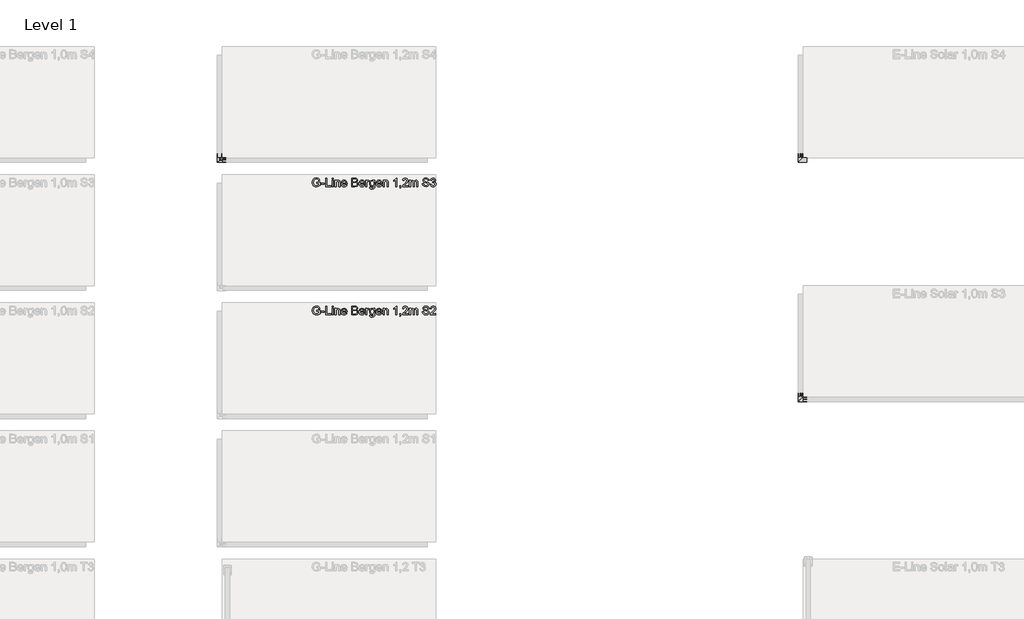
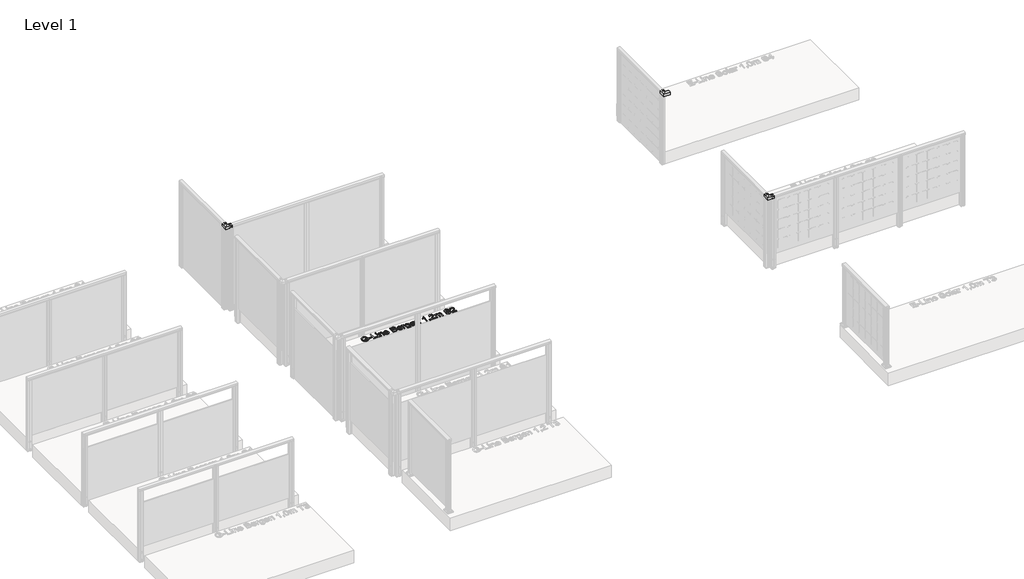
# One storey, part 59 of 66: 5 proxies.
"""IFC4 building model written with IfcOpenShell, lengths in millimetres."""

from ifc_helpers import new_model, si_unit, origin, origin_with_axes, place, context, project, spatial, polyline, outline, extrude, transform, mapped, element, save
from components import generic_models_029e0633

model = new_model("IFC4")

# Units and contexts
model_context = context("Model", 3, world=origin())
ifc_project = project(units=[si_unit("LENGTHUNIT", "METRE", prefix="MILLI")], contexts=[model_context])

# Site, building, storey
site = spatial("IfcSite", under=ifc_project)
building = spatial("IfcBuilding", under=site)
storey = spatial("IfcBuildingStorey", under=building, Name="Level 1", Elevation=0.0)

# Proxies
placement = place(None, origin())
generic_models_shape = generic_models_029e0633(model_context)
element("IfcBuildingElementProxy", 1, Name="Innore top rail 51x43 corner element : Innore top rail 51x43 element", ObjectType="Innore top rail 51x43 corner element : Innore top rail 51x43 element", at=placement, inside=storey, context=model_context, shape_type="MappedRepresentation", body=[
    mapped(generic_models_shape, transform((8466.5256066, 2988.9093698, 1200.0), x_axis=(0.0, -1.0, 0.0), y_axis=(1.0, 0.0, 0.0), z_axis=(0.0, 0.0, 1.0))),
])
element("IfcBuildingElementProxy", 2, Name="Innore top rail 51x43 corner element : Innore top rail 51x43 element", ObjectType="Innore top rail 51x43 corner element : Innore top rail 51x43 element", at=placement, inside=storey, context=model_context, shape_type="MappedRepresentation", body=[
    mapped(generic_models_shape, transform((15266.5256066, 2988.9093698, 1000.0), x_axis=(0.0, -1.0, 0.0), y_axis=(1.0, 0.0, 0.0), z_axis=(0.0, 0.0, 1.0))),
])
element("IfcBuildingElementProxy", 3, Name="Innore top rail 51x43 corner element : Innore top rail 51x43 element", ObjectType="Innore top rail 51x43 corner element : Innore top rail 51x43 element", at=placement, inside=storey, context=model_context, shape_type="MappedRepresentation", body=[
    mapped(generic_models_shape, transform((15266.5256066, 188.9093698, 1000.0), x_axis=(0.0, -1.0, 0.0), y_axis=(1.0, 0.0, 0.0), z_axis=(0.0, 0.0, 1.0))),
])
element("IfcBuildingElementProxy", 4, Name="100mm Arial", ObjectType="100mm Arial", at=placement, inside=storey, context=model_context, shape_type="SweptSolid", body=[
    extrude(outline(polyline([(9601.1253773, 1218.1223441), (9601.1253773, 1230.6793828), (9641.9357533, 1230.6793828), (9641.9357533, 1193.1308939), (9621.7880827, 1181.2850936), (9600.4877152, 1177.3119681), (9586.4009005, 1178.890795), (9573.6691178, 1183.6272757), (9563.0925104, 1191.3558632), (9555.4712217, 1201.9110108), (9550.8634997, 1214.5722828), (9549.3275924, 1228.6192437), (9550.8573684, 1242.7673721), (9555.4466963, 1255.9283504), (9562.9055037, 1266.967876), (9573.0437184, 1274.7516459), (9585.3922907, 1279.3685649), (9599.4821711, 1280.9075379), (9619.1270696, 1277.3390826), (9632.898119, 1267.4062687), (9640.4887508, 1250.7902652), (9628.9127307, 1247.5283782), (9623.1860343, 1259.1411865), (9613.4003732, 1265.8366388), (9599.2859674, 1268.3504991), (9583.2095242, 1265.6404351), (9572.2711662, 1258.5280499), (9565.8087058, 1248.8527534), (9561.8846312, 1229.1342785), (9566.6057835, 1207.2452997), (9580.3400446, 1194.1487007), (9599.4821711, 1189.8690068), (9616.6622603, 1193.0941057), (9629.3787146, 1199.973499), (9629.3787146, 1218.1223441), (9601.1253773, 1218.1223441)])), origin_with_axes(), (0.0, 0.0, 1.0), 10.0),
    extrude(outline(polyline([(9654.4927921, 1208.704565), (9654.4927921, 1221.2616038), (9693.7335383, 1221.2616038), (9693.7335383, 1208.704565), (9654.4927921, 1208.704565)])), origin_with_axes(), (0.0, 0.0, 1.0), 10.0),
    extrude(outline(polyline([(9709.4298367, 1178.8815979), (9709.4298367, 1279.3379081), (9721.9868755, 1279.3379081), (9721.9868755, 1191.4386367), (9772.2150306, 1191.4386367), (9772.2150306, 1178.8815979), (9709.4298367, 1178.8815979)])), origin_with_axes(), (0.0, 0.0, 1.0), 10.0),
    extrude(outline(polyline([(9784.7720693, 1266.7808693), (9784.7720693, 1279.3379081), (9797.3291081, 1279.3379081), (9797.3291081, 1266.7808693), (9784.7720693, 1266.7808693)])), origin_with_axes(), (0.0, 0.0, 1.0), 10.0),
    extrude(outline(polyline([(9784.7720693, 1178.8815979), (9784.7720693, 1252.6542007), (9797.3291081, 1252.6542007), (9797.3291081, 1178.8815979), (9784.7720693, 1178.8815979)])), origin_with_axes(), (0.0, 0.0, 1.0), 10.0),
    extrude(outline(polyline([(9816.1646663, 1178.8815979), (9816.1646663, 1252.6542007), (9828.721705, 1252.6542007), (9828.721705, 1242.3535048), (9838.3234251, 1251.2562491), (9851.4322869, 1254.2238305), (9863.2903498, 1251.8325976), (9871.3837537, 1245.5540782), (9875.1484128, 1236.3202401), (9875.8106004, 1224.1801343), (9875.8106004, 1178.8815979), (9863.2535616, 1178.8815979), (9863.2535616, 1222.4878771), (9861.8065591, 1233.5979133), (9856.6929994, 1239.4717625), (9848.072298, 1241.6667918), (9834.4484014, 1236.737173), (9830.1533791, 1229.594131), (9828.721705, 1218.0242422), (9828.721705, 1178.8815979), (9816.1646663, 1178.8815979)])), origin_with_axes(), (0.0, 0.0, 1.0), 10.0),
    extrude(outline(polyline([(9944.7271608, 1200.8564158), (9957.0389449, 1199.2867859), (9952.6029012, 1190.0100283), (9945.5242385, 1183.0754527), (9935.9623723, 1178.7528392), (9924.0767182, 1177.3119681), (9909.3430443, 1179.7982372), (9898.0061474, 1187.2570447), (9890.7772662, 1199.2040125), (9888.3676392, 1215.1547626), (9890.8017917, 1231.6420074), (9898.1042493, 1243.9721856), (9909.287862, 1251.6609193), (9923.3654796, 1254.2238305), (9937.0047046, 1251.6670507), (9947.9032087, 1243.9967111), (9955.0493165, 1231.6910583), (9957.4313524, 1215.228339), (9957.357776, 1211.8438247), (9900.9246779, 1211.8438247), (9903.0982474, 1202.4444397), (9908.1474278, 1195.5343896), (9915.434557, 1191.2853525), (9924.3219728, 1189.8690068), (9936.6337569, 1192.4932317), (9944.7271608, 1200.8564158)]), holes=[polyline([(9900.9246779, 1224.4008635), (9944.8743136, 1224.4008635), (9939.846593, 1235.7806798), (9932.5257413, 1240.1952638), (9923.3164287, 1241.6667918), (9907.8531222, 1236.970165), (9902.9878828, 1231.4795262), (9900.9246779, 1224.4008635)])]), origin_with_axes(), (0.0, 0.0, 1.0), 10.0),
    extrude(outline(polyline([(10010.7987672, 1178.8815979), (10010.7987672, 1279.3379081), (10049.1320711, 1279.3379081), (10067.9063156, 1276.3825894), (10078.9918263, 1267.2959041), (10083.0017401, 1254.4445597), (10079.6294885, 1242.7091241), (10069.4391572, 1233.8186425), (10081.812255, 1224.4499144), (10086.1409998, 1208.8271923), (10083.1856811, 1195.3259231), (10075.8648294, 1185.7119403), (10064.9387341, 1180.6106433), (10048.8377655, 1178.8815979), (10010.7987672, 1178.8815979)]), holes=[polyline([(10023.3558059, 1238.5275321), (10046.287117, 1238.5275321), (10059.6780216, 1239.6066526), (10067.7346373, 1244.2542285), (10070.4447013, 1252.4334715), (10067.9185783, 1260.6249772), (10060.6835657, 1265.4687569), (10044.5458089, 1266.7808693), (10023.3558059, 1266.7808693), (10023.3558059, 1238.5275321)]), polyline([(10023.3558059, 1191.4386367), (10049.1075456, 1191.4386367), (10058.4272228, 1191.929146), (10066.3121602, 1194.6637355), (10071.5360846, 1200.2432791), (10073.583961, 1208.704565), (10071.1804653, 1218.4657006), (10063.3936297, 1224.2904989), (10047.8812723, 1225.9704933), (10023.3558059, 1225.9704933), (10023.3558059, 1191.4386367)])]), origin_with_axes(), (0.0, 0.0, 1.0), 10.0),
    extrude(outline(polyline([(10153.4879304, 1200.8564158), (10165.7997145, 1199.2867859), (10161.3636707, 1190.0100283), (10154.285008, 1183.0754527), (10144.7231418, 1178.7528392), (10132.8374877, 1177.3119681), (10118.1038138, 1179.7982372), (10106.766917, 1187.2570447), (10099.5380358, 1199.2040125), (10097.1284087, 1215.1547626), (10099.5625612, 1231.6420074), (10106.8650188, 1243.9721856), (10118.0486315, 1251.6609193), (10132.1262492, 1254.2238305), (10145.7654741, 1251.6670507), (10156.6639783, 1243.9967111), (10163.810086, 1231.6910583), (10166.1921219, 1215.228339), (10166.1185455, 1211.8438247), (10109.6854475, 1211.8438247), (10111.8590169, 1202.4444397), (10116.9081973, 1195.5343896), (10124.1953265, 1191.2853525), (10133.0827424, 1189.8690068), (10145.3945265, 1192.4932317), (10153.4879304, 1200.8564158)]), holes=[polyline([(10109.6854475, 1224.4008635), (10153.6350832, 1224.4008635), (10148.6073626, 1235.7806798), (10141.2865109, 1240.1952638), (10132.0771982, 1241.6667918), (10116.6138917, 1236.970165), (10111.7486523, 1231.4795262), (10109.6854475, 1224.4008635)])]), origin_with_axes(), (0.0, 0.0, 1.0), 10.0),
    extrude(outline(polyline([(10178.7491607, 1178.8815979), (10178.7491607, 1252.6542007), (10189.7365696, 1252.6542007), (10189.7365696, 1241.7403682), (10197.5356679, 1251.7958094), (10205.3838171, 1254.2238305), (10217.9899068, 1250.3488068), (10213.7960521, 1239.0916178), (10204.9668842, 1241.6667918), (10197.8667617, 1239.1897197), (10193.3418132, 1232.3225891), (10191.3061995, 1217.6563602), (10191.3061995, 1178.8815979), (10178.7491607, 1178.8815979)])), origin_with_axes(), (0.0, 0.0, 1.0), 10.0),
    extrude(outline(polyline([(10222.6987964, 1172.6030785), (10235.2558352, 1171.0334487), (10239.3270626, 1164.4115728), (10251.5162193, 1161.6156696), (10264.3675637, 1164.7794548), (10270.4989303, 1173.6576736), (10271.3573216, 1188.299377), (10262.515891, 1181.2360427), (10251.7369485, 1178.8815979), (10238.790568, 1181.6223188), (10229.1367313, 1189.8444814), (10223.1310577, 1201.8987481), (10221.1291665, 1216.1357813), (10224.7221474, 1235.5967388), (10235.1209451, 1249.3677882), (10251.1238119, 1254.2238305), (10262.3258186, 1251.4769783), (10271.3573216, 1243.2364216), (10271.3573216, 1252.6542007), (10283.9143604, 1252.6542007), (10283.9143604, 1188.9615646), (10280.4807951, 1164.5709883), (10269.6037508, 1153.2279601), (10251.2709647, 1149.0586308), (10239.5876456, 1150.5270931), (10230.3875301, 1154.93248), (10224.4860897, 1162.2870543), (10222.6987964, 1172.6030785)]), holes=[polyline([(10233.6862053, 1216.9941726), (10235.0259089, 1205.4764005), (10239.0450197, 1197.5577405), (10245.0874815, 1192.9684127), (10252.497238, 1191.4386367), (10259.8518122, 1192.9592156), (10265.9249308, 1197.5209523), (10269.9992239, 1205.3384447), (10271.3573216, 1216.6262906), (10269.95937, 1227.512532), (10265.7655153, 1235.3514842), (10259.6034919, 1240.0879649), (10252.3010343, 1241.6667918), (10245.130401, 1240.1124903), (10239.1185961, 1235.449586), (10235.044303, 1227.7271298), (10233.6862053, 1216.9941726)])]), origin_with_axes(), (0.0, 0.0, 1.0), 10.0),
    extrude(outline(polyline([(10354.4005507, 1200.8564158), (10366.7123348, 1199.2867859), (10362.276291, 1190.0100283), (10355.1976283, 1183.0754527), (10345.6357621, 1178.7528392), (10333.750108, 1177.3119681), (10319.0164341, 1179.7982372), (10307.6795373, 1187.2570447), (10300.4506561, 1199.2040125), (10298.041029, 1215.1547626), (10300.4751815, 1231.6420074), (10307.7776391, 1243.9721856), (10318.9612518, 1251.6609193), (10333.0388695, 1254.2238305), (10346.6780944, 1251.6670507), (10357.5765986, 1243.9967111), (10364.7227063, 1231.6910583), (10367.1047422, 1215.228339), (10367.0311658, 1211.8438247), (10310.5980678, 1211.8438247), (10312.7716372, 1202.4444397), (10317.8208176, 1195.5343896), (10325.1079468, 1191.2853525), (10333.9953627, 1189.8690068), (10346.3071468, 1192.4932317), (10354.4005507, 1200.8564158)]), holes=[polyline([(10310.5980678, 1224.4008635), (10354.5477035, 1224.4008635), (10349.5199829, 1235.7806798), (10342.1991312, 1240.1952638), (10332.9898185, 1241.6667918), (10317.526512, 1236.970165), (10312.6612726, 1231.4795262), (10310.5980678, 1224.4008635)])]), origin_with_axes(), (0.0, 0.0, 1.0), 10.0),
    extrude(outline(polyline([(10379.661781, 1178.8815979), (10379.661781, 1252.6542007), (10392.2188198, 1252.6542007), (10392.2188198, 1242.3535048), (10401.8205398, 1251.2562491), (10414.9294016, 1254.2238305), (10426.7874646, 1251.8325976), (10434.8808685, 1245.5540782), (10438.6455276, 1236.3202401), (10439.3077151, 1224.1801343), (10439.3077151, 1178.8815979), (10426.7506764, 1178.8815979), (10426.7506764, 1222.4878771), (10425.3036739, 1233.5979133), (10420.1901141, 1239.4717625), (10411.5694127, 1241.6667918), (10397.9455162, 1236.737173), (10393.6504939, 1229.594131), (10392.2188198, 1218.0242422), (10392.2188198, 1178.8815979), (10379.661781, 1178.8815979)])), origin_with_axes(), (0.0, 0.0, 1.0), 10.0),
    extrude(outline(polyline([(10539.7640253, 1178.8815979), (10527.2069865, 1178.8815979), (10527.2069865, 1257.1668865), (10515.3121354, 1248.6933379), (10502.092909, 1242.3535048), (10502.092909, 1254.2238305), (10520.4992715, 1265.9715289), (10531.6706214, 1279.3379081), (10539.7640253, 1279.3379081), (10539.7640253, 1178.8815979)])), origin_with_axes(), (0.0, 0.0, 1.0), 10.0),
    extrude(outline(polyline([(10575.8655118, 1178.8815979), (10575.8655118, 1191.4386367), (10588.4225505, 1191.4386367), (10588.4225505, 1178.8815979), (10586.1662076, 1166.0425163), (10579.0047714, 1158.4764099), (10575.8655118, 1163.1852995), (10580.4762994, 1168.6054275), (10582.1195057, 1178.8815979), (10575.8655118, 1178.8815979)])), origin_with_axes(), (0.0, 0.0, 1.0), 10.0),
    extrude(outline(polyline([(10673.1825622, 1191.4386367), (10673.1825622, 1178.8815979), (10607.2581087, 1178.8815979), (10608.6070093, 1187.5390875), (10616.2344294, 1200.8686785), (10631.9552533, 1215.4245428), (10653.6357655, 1236.3447656), (10659.0558936, 1250.569536), (10653.9423339, 1262.0842425), (10640.5882174, 1266.7808693), (10626.6700153, 1262.1946071), (10621.3847773, 1249.514941), (10608.8277385, 1251.0845708), (10611.871962, 1263.230808), (10618.4539841, 1272.1028955), (10628.2304481, 1277.5291549), (10640.8579976, 1279.3379081), (10653.5775176, 1277.3268198), (10663.3355875, 1271.2935551), (10669.5435961, 1262.2804462), (10671.6129324, 1251.3298255), (10669.3811149, 1239.4227116), (10661.9621614, 1227.1109275), (10643.9727318, 1209.9063128), (10629.5272321, 1197.8275207), (10623.8618494, 1191.4386367), (10673.1825622, 1191.4386367)])), origin_with_axes(), (0.0, 0.0, 1.0), 10.0),
    extrude(outline(polyline([(10688.8788607, 1178.8815979), (10688.8788607, 1252.6542007), (10701.4358994, 1252.6542007), (10701.4358994, 1240.5140948), (10710.0688636, 1250.4591714), (10722.3561222, 1254.2238305), (10734.9376865, 1250.385595), (10741.853868, 1239.6311781), (10751.6517918, 1250.5756674), (10764.0248896, 1254.2238305), (10773.4641284, 1252.7063173), (10780.4446893, 1248.1537776), (10784.7581057, 1240.4435841), (10786.1959111, 1229.4531095), (10786.1959111, 1178.8815979), (10773.6388724, 1178.8815979), (10773.6388724, 1224.0575069), (10772.4739127, 1234.5421438), (10768.2555325, 1239.7047545), (10761.0818336, 1241.6667918), (10748.7332613, 1236.6390712), (10745.0452443, 1230.096903), (10743.8159053, 1220.5258398), (10743.8159053, 1178.8815979), (10731.2588665, 1178.8815979), (10731.2588665, 1225.4554585), (10728.3525988, 1237.6200898), (10718.8244551, 1241.6667918), (10709.5293033, 1238.9689905), (10703.3488858, 1231.0717903), (10701.4358994, 1216.0867304), (10701.4358994, 1178.8815979), (10688.8788607, 1178.8815979)])), origin_with_axes(), (0.0, 0.0, 1.0), 10.0),
    extrude(outline(polyline([(10841.1329557, 1213.4134545), (10853.6899945, 1213.4134545), (10857.7366965, 1200.844153), (10867.6204594, 1192.8979019), (10882.6790957, 1189.8690068), (10895.8002202, 1192.1621379), (10904.2737689, 1198.4651828), (10907.0574093, 1206.8896805), (10904.9727446, 1214.725567), (10896.4378824, 1220.4277379), (10878.1541472, 1225.2224666), (10858.4724605, 1231.4151468), (10847.7916199, 1240.7593495), (10844.2722154, 1253.2428119), (10848.6254857, 1267.4553196), (10861.34194, 1277.4862354), (10879.956769, 1280.9075379), (10899.8223967, 1277.3268198), (10913.0661485, 1266.8053948), (10918.0448182, 1251.0845708), (10905.4877794, 1251.0845708), (10903.1823856, 1258.5771008), (10898.3753942, 1263.9849661), (10880.4472783, 1268.3504991), (10862.4701115, 1264.0340171), (10856.8292542, 1253.6106939), (10860.8269052, 1244.9041533), (10881.3301951, 1237.8898699), (10903.5502676, 1231.5868251), (10915.7026362, 1221.4087566), (10919.6144481, 1207.2085115), (10915.114025, 1192.1866634), (10902.1645787, 1181.22378), (10883.1696051, 1177.3119681), (10860.7410661, 1181.5303483), (10846.5530838, 1194.2345399), (10841.1329557, 1213.4134545)])), origin_with_axes(), (0.0, 0.0, 1.0), 10.0),
    extrude(outline(polyline([(10998.0959404, 1191.4386367), (10998.0959404, 1178.8815979), (10932.1714868, 1178.8815979), (10933.5203875, 1187.5390875), (10941.1478075, 1200.8686785), (10956.8686314, 1215.4245428), (10978.5491437, 1236.3447656), (10983.9692717, 1250.569536), (10978.855712, 1262.0842425), (10965.5015956, 1266.7808693), (10951.5833934, 1262.1946071), (10946.2981554, 1249.514941), (10933.7411167, 1251.0845708), (10936.7853402, 1263.230808), (10943.3673622, 1272.1028955), (10953.1438262, 1277.5291549), (10965.7713757, 1279.3379081), (10978.4908957, 1277.3268198), (10988.2489656, 1271.2935551), (10994.4569743, 1262.2804462), (10996.5263105, 1251.3298255), (10994.2944931, 1239.4227116), (10986.8755395, 1227.1109275), (10968.8861099, 1209.9063128), (10954.4406103, 1197.8275207), (10948.7752275, 1191.4386367), (10998.0959404, 1191.4386367)])), origin_with_axes(), (0.0, 0.0, 1.0), 10.0),
])
element("IfcBuildingElementProxy", 5, Name="100mm Arial", ObjectType="100mm Arial", at=placement, inside=storey, context=model_context, shape_type="SweptSolid", body=[
    extrude(outline(polyline([(9601.1253773, 2718.1223441), (9601.1253773, 2730.6793828), (9641.9357533, 2730.6793828), (9641.9357533, 2693.1308939), (9621.7880827, 2681.2850936), (9600.4877152, 2677.3119681), (9586.4009005, 2678.890795), (9573.6691178, 2683.6272757), (9563.0925104, 2691.3558632), (9555.4712217, 2701.9110108), (9550.8634997, 2714.5722828), (9549.3275924, 2728.6192437), (9550.8573684, 2742.7673721), (9555.4466963, 2755.9283504), (9562.9055037, 2766.967876), (9573.0437184, 2774.7516459), (9585.3922907, 2779.3685649), (9599.4821711, 2780.9075379), (9619.1270696, 2777.3390826), (9632.898119, 2767.4062687), (9640.4887508, 2750.7902652), (9628.9127307, 2747.5283782), (9623.1860343, 2759.1411865), (9613.4003732, 2765.8366388), (9599.2859674, 2768.3504991), (9583.2095242, 2765.6404351), (9572.2711662, 2758.5280499), (9565.8087058, 2748.8527534), (9561.8846312, 2729.1342785), (9566.6057835, 2707.2452997), (9580.3400446, 2694.1487007), (9599.4821711, 2689.8690068), (9616.6622603, 2693.0941057), (9629.3787146, 2699.973499), (9629.3787146, 2718.1223441), (9601.1253773, 2718.1223441)])), origin_with_axes(), (0.0, 0.0, 1.0), 10.0),
    extrude(outline(polyline([(9654.4927921, 2708.704565), (9654.4927921, 2721.2616038), (9693.7335383, 2721.2616038), (9693.7335383, 2708.704565), (9654.4927921, 2708.704565)])), origin_with_axes(), (0.0, 0.0, 1.0), 10.0),
    extrude(outline(polyline([(9709.4298367, 2678.8815979), (9709.4298367, 2779.3379081), (9721.9868755, 2779.3379081), (9721.9868755, 2691.4386367), (9772.2150306, 2691.4386367), (9772.2150306, 2678.8815979), (9709.4298367, 2678.8815979)])), origin_with_axes(), (0.0, 0.0, 1.0), 10.0),
    extrude(outline(polyline([(9784.7720693, 2766.7808693), (9784.7720693, 2779.3379081), (9797.3291081, 2779.3379081), (9797.3291081, 2766.7808693), (9784.7720693, 2766.7808693)])), origin_with_axes(), (0.0, 0.0, 1.0), 10.0),
    extrude(outline(polyline([(9784.7720693, 2678.8815979), (9784.7720693, 2752.6542007), (9797.3291081, 2752.6542007), (9797.3291081, 2678.8815979), (9784.7720693, 2678.8815979)])), origin_with_axes(), (0.0, 0.0, 1.0), 10.0),
    extrude(outline(polyline([(9816.1646663, 2678.8815979), (9816.1646663, 2752.6542007), (9828.721705, 2752.6542007), (9828.721705, 2742.3535048), (9838.3234251, 2751.2562491), (9851.4322869, 2754.2238305), (9863.2903498, 2751.8325976), (9871.3837537, 2745.5540782), (9875.1484128, 2736.3202401), (9875.8106004, 2724.1801343), (9875.8106004, 2678.8815979), (9863.2535616, 2678.8815979), (9863.2535616, 2722.4878771), (9861.8065591, 2733.5979133), (9856.6929994, 2739.4717625), (9848.072298, 2741.6667918), (9834.4484014, 2736.737173), (9830.1533791, 2729.594131), (9828.721705, 2718.0242422), (9828.721705, 2678.8815979), (9816.1646663, 2678.8815979)])), origin_with_axes(), (0.0, 0.0, 1.0), 10.0),
    extrude(outline(polyline([(9944.7271608, 2700.8564158), (9957.0389449, 2699.2867859), (9952.6029012, 2690.0100283), (9945.5242385, 2683.0754527), (9935.9623723, 2678.7528392), (9924.0767182, 2677.3119681), (9909.3430443, 2679.7982372), (9898.0061474, 2687.2570447), (9890.7772662, 2699.2040125), (9888.3676392, 2715.1547626), (9890.8017917, 2731.6420074), (9898.1042493, 2743.9721856), (9909.287862, 2751.6609193), (9923.3654796, 2754.2238305), (9937.0047046, 2751.6670507), (9947.9032087, 2743.9967111), (9955.0493165, 2731.6910583), (9957.4313524, 2715.228339), (9957.357776, 2711.8438247), (9900.9246779, 2711.8438247), (9903.0982474, 2702.4444397), (9908.1474278, 2695.5343896), (9915.434557, 2691.2853525), (9924.3219728, 2689.8690068), (9936.6337569, 2692.4932317), (9944.7271608, 2700.8564158)]), holes=[polyline([(9900.9246779, 2724.4008635), (9944.8743136, 2724.4008635), (9939.846593, 2735.7806798), (9932.5257413, 2740.1952638), (9923.3164287, 2741.6667918), (9907.8531222, 2736.970165), (9902.9878828, 2731.4795262), (9900.9246779, 2724.4008635)])]), origin_with_axes(), (0.0, 0.0, 1.0), 10.0),
    extrude(outline(polyline([(10010.7987672, 2678.8815979), (10010.7987672, 2779.3379081), (10049.1320711, 2779.3379081), (10067.9063156, 2776.3825894), (10078.9918263, 2767.2959041), (10083.0017401, 2754.4445597), (10079.6294885, 2742.7091241), (10069.4391572, 2733.8186425), (10081.812255, 2724.4499144), (10086.1409998, 2708.8271923), (10083.1856811, 2695.3259231), (10075.8648294, 2685.7119403), (10064.9387341, 2680.6106433), (10048.8377655, 2678.8815979), (10010.7987672, 2678.8815979)]), holes=[polyline([(10023.3558059, 2738.5275321), (10046.287117, 2738.5275321), (10059.6780216, 2739.6066526), (10067.7346373, 2744.2542285), (10070.4447013, 2752.4334715), (10067.9185783, 2760.6249772), (10060.6835657, 2765.4687569), (10044.5458089, 2766.7808693), (10023.3558059, 2766.7808693), (10023.3558059, 2738.5275321)]), polyline([(10023.3558059, 2691.4386367), (10049.1075456, 2691.4386367), (10058.4272228, 2691.929146), (10066.3121602, 2694.6637355), (10071.5360846, 2700.2432791), (10073.583961, 2708.704565), (10071.1804653, 2718.4657006), (10063.3936297, 2724.2904989), (10047.8812723, 2725.9704933), (10023.3558059, 2725.9704933), (10023.3558059, 2691.4386367)])]), origin_with_axes(), (0.0, 0.0, 1.0), 10.0),
    extrude(outline(polyline([(10153.4879304, 2700.8564158), (10165.7997145, 2699.2867859), (10161.3636707, 2690.0100283), (10154.285008, 2683.0754527), (10144.7231418, 2678.7528392), (10132.8374877, 2677.3119681), (10118.1038138, 2679.7982372), (10106.766917, 2687.2570447), (10099.5380358, 2699.2040125), (10097.1284087, 2715.1547626), (10099.5625612, 2731.6420074), (10106.8650188, 2743.9721856), (10118.0486315, 2751.6609193), (10132.1262492, 2754.2238305), (10145.7654741, 2751.6670507), (10156.6639783, 2743.9967111), (10163.810086, 2731.6910583), (10166.1921219, 2715.228339), (10166.1185455, 2711.8438247), (10109.6854475, 2711.8438247), (10111.8590169, 2702.4444397), (10116.9081973, 2695.5343896), (10124.1953265, 2691.2853525), (10133.0827424, 2689.8690068), (10145.3945265, 2692.4932317), (10153.4879304, 2700.8564158)]), holes=[polyline([(10109.6854475, 2724.4008635), (10153.6350832, 2724.4008635), (10148.6073626, 2735.7806798), (10141.2865109, 2740.1952638), (10132.0771982, 2741.6667918), (10116.6138917, 2736.970165), (10111.7486523, 2731.4795262), (10109.6854475, 2724.4008635)])]), origin_with_axes(), (0.0, 0.0, 1.0), 10.0),
    extrude(outline(polyline([(10178.7491607, 2678.8815979), (10178.7491607, 2752.6542007), (10189.7365696, 2752.6542007), (10189.7365696, 2741.7403682), (10197.5356679, 2751.7958094), (10205.3838171, 2754.2238305), (10217.9899068, 2750.3488068), (10213.7960521, 2739.0916178), (10204.9668842, 2741.6667918), (10197.8667617, 2739.1897197), (10193.3418132, 2732.3225891), (10191.3061995, 2717.6563602), (10191.3061995, 2678.8815979), (10178.7491607, 2678.8815979)])), origin_with_axes(), (0.0, 0.0, 1.0), 10.0),
    extrude(outline(polyline([(10222.6987964, 2672.6030785), (10235.2558352, 2671.0334487), (10239.3270626, 2664.4115728), (10251.5162193, 2661.6156696), (10264.3675637, 2664.7794548), (10270.4989303, 2673.6576736), (10271.3573216, 2688.299377), (10262.515891, 2681.2360427), (10251.7369485, 2678.8815979), (10238.790568, 2681.6223188), (10229.1367313, 2689.8444814), (10223.1310577, 2701.8987481), (10221.1291665, 2716.1357813), (10224.7221474, 2735.5967388), (10235.1209451, 2749.3677882), (10251.1238119, 2754.2238305), (10262.3258186, 2751.4769783), (10271.3573216, 2743.2364216), (10271.3573216, 2752.6542007), (10283.9143604, 2752.6542007), (10283.9143604, 2688.9615646), (10280.4807951, 2664.5709883), (10269.6037508, 2653.2279601), (10251.2709647, 2649.0586308), (10239.5876456, 2650.5270931), (10230.3875301, 2654.93248), (10224.4860897, 2662.2870543), (10222.6987964, 2672.6030785)]), holes=[polyline([(10233.6862053, 2716.9941726), (10235.0259089, 2705.4764005), (10239.0450197, 2697.5577405), (10245.0874815, 2692.9684127), (10252.497238, 2691.4386367), (10259.8518122, 2692.9592156), (10265.9249308, 2697.5209523), (10269.9992239, 2705.3384447), (10271.3573216, 2716.6262906), (10269.95937, 2727.512532), (10265.7655153, 2735.3514842), (10259.6034919, 2740.0879649), (10252.3010343, 2741.6667918), (10245.130401, 2740.1124903), (10239.1185961, 2735.449586), (10235.044303, 2727.7271298), (10233.6862053, 2716.9941726)])]), origin_with_axes(), (0.0, 0.0, 1.0), 10.0),
    extrude(outline(polyline([(10354.4005507, 2700.8564158), (10366.7123348, 2699.2867859), (10362.276291, 2690.0100283), (10355.1976283, 2683.0754527), (10345.6357621, 2678.7528392), (10333.750108, 2677.3119681), (10319.0164341, 2679.7982372), (10307.6795373, 2687.2570447), (10300.4506561, 2699.2040125), (10298.041029, 2715.1547626), (10300.4751815, 2731.6420074), (10307.7776391, 2743.9721856), (10318.9612518, 2751.6609193), (10333.0388695, 2754.2238305), (10346.6780944, 2751.6670507), (10357.5765986, 2743.9967111), (10364.7227063, 2731.6910583), (10367.1047422, 2715.228339), (10367.0311658, 2711.8438247), (10310.5980678, 2711.8438247), (10312.7716372, 2702.4444397), (10317.8208176, 2695.5343896), (10325.1079468, 2691.2853525), (10333.9953627, 2689.8690068), (10346.3071468, 2692.4932317), (10354.4005507, 2700.8564158)]), holes=[polyline([(10310.5980678, 2724.4008635), (10354.5477035, 2724.4008635), (10349.5199829, 2735.7806798), (10342.1991312, 2740.1952638), (10332.9898185, 2741.6667918), (10317.526512, 2736.970165), (10312.6612726, 2731.4795262), (10310.5980678, 2724.4008635)])]), origin_with_axes(), (0.0, 0.0, 1.0), 10.0),
    extrude(outline(polyline([(10379.661781, 2678.8815979), (10379.661781, 2752.6542007), (10392.2188198, 2752.6542007), (10392.2188198, 2742.3535048), (10401.8205398, 2751.2562491), (10414.9294016, 2754.2238305), (10426.7874646, 2751.8325976), (10434.8808685, 2745.5540782), (10438.6455276, 2736.3202401), (10439.3077151, 2724.1801343), (10439.3077151, 2678.8815979), (10426.7506764, 2678.8815979), (10426.7506764, 2722.4878771), (10425.3036739, 2733.5979133), (10420.1901141, 2739.4717625), (10411.5694127, 2741.6667918), (10397.9455162, 2736.737173), (10393.6504939, 2729.594131), (10392.2188198, 2718.0242422), (10392.2188198, 2678.8815979), (10379.661781, 2678.8815979)])), origin_with_axes(), (0.0, 0.0, 1.0), 10.0),
    extrude(outline(polyline([(10539.7640253, 2678.8815979), (10527.2069865, 2678.8815979), (10527.2069865, 2757.1668865), (10515.3121354, 2748.6933379), (10502.092909, 2742.3535048), (10502.092909, 2754.2238305), (10520.4992715, 2765.9715289), (10531.6706214, 2779.3379081), (10539.7640253, 2779.3379081), (10539.7640253, 2678.8815979)])), origin_with_axes(), (0.0, 0.0, 1.0), 10.0),
    extrude(outline(polyline([(10575.8655118, 2678.8815979), (10575.8655118, 2691.4386367), (10588.4225505, 2691.4386367), (10588.4225505, 2678.8815979), (10586.1662076, 2666.0425163), (10579.0047714, 2658.4764099), (10575.8655118, 2663.1852995), (10580.4762994, 2668.6054275), (10582.1195057, 2678.8815979), (10575.8655118, 2678.8815979)])), origin_with_axes(), (0.0, 0.0, 1.0), 10.0),
    extrude(outline(polyline([(10673.1825622, 2691.4386367), (10673.1825622, 2678.8815979), (10607.2581087, 2678.8815979), (10608.6070093, 2687.5390875), (10616.2344294, 2700.8686785), (10631.9552533, 2715.4245428), (10653.6357655, 2736.3447656), (10659.0558936, 2750.569536), (10653.9423339, 2762.0842425), (10640.5882174, 2766.7808693), (10626.6700153, 2762.1946071), (10621.3847773, 2749.514941), (10608.8277385, 2751.0845708), (10611.871962, 2763.230808), (10618.4539841, 2772.1028955), (10628.2304481, 2777.5291549), (10640.8579976, 2779.3379081), (10653.5775176, 2777.3268198), (10663.3355875, 2771.2935551), (10669.5435961, 2762.2804462), (10671.6129324, 2751.3298255), (10669.3811149, 2739.4227116), (10661.9621614, 2727.1109275), (10643.9727318, 2709.9063128), (10629.5272321, 2697.8275207), (10623.8618494, 2691.4386367), (10673.1825622, 2691.4386367)])), origin_with_axes(), (0.0, 0.0, 1.0), 10.0),
    extrude(outline(polyline([(10688.8788607, 2678.8815979), (10688.8788607, 2752.6542007), (10701.4358994, 2752.6542007), (10701.4358994, 2740.5140948), (10710.0688636, 2750.4591714), (10722.3561222, 2754.2238305), (10734.9376865, 2750.385595), (10741.853868, 2739.6311781), (10751.6517918, 2750.5756674), (10764.0248896, 2754.2238305), (10773.4641284, 2752.7063173), (10780.4446893, 2748.1537776), (10784.7581057, 2740.4435841), (10786.1959111, 2729.4531095), (10786.1959111, 2678.8815979), (10773.6388724, 2678.8815979), (10773.6388724, 2724.0575069), (10772.4739127, 2734.5421438), (10768.2555325, 2739.7047545), (10761.0818336, 2741.6667918), (10748.7332613, 2736.6390712), (10745.0452443, 2730.096903), (10743.8159053, 2720.5258398), (10743.8159053, 2678.8815979), (10731.2588665, 2678.8815979), (10731.2588665, 2725.4554585), (10728.3525988, 2737.6200898), (10718.8244551, 2741.6667918), (10709.5293033, 2738.9689905), (10703.3488858, 2731.0717903), (10701.4358994, 2716.0867304), (10701.4358994, 2678.8815979), (10688.8788607, 2678.8815979)])), origin_with_axes(), (0.0, 0.0, 1.0), 10.0),
    extrude(outline(polyline([(10841.1329557, 2713.4134545), (10853.6899945, 2713.4134545), (10857.7366965, 2700.844153), (10867.6204594, 2692.8979019), (10882.6790957, 2689.8690068), (10895.8002202, 2692.1621379), (10904.2737689, 2698.4651828), (10907.0574093, 2706.8896805), (10904.9727446, 2714.725567), (10896.4378824, 2720.4277379), (10878.1541472, 2725.2224666), (10858.4724605, 2731.4151468), (10847.7916199, 2740.7593495), (10844.2722154, 2753.2428119), (10848.6254857, 2767.4553196), (10861.34194, 2777.4862354), (10879.956769, 2780.9075379), (10899.8223967, 2777.3268198), (10913.0661485, 2766.8053948), (10918.0448182, 2751.0845708), (10905.4877794, 2751.0845708), (10903.1823856, 2758.5771008), (10898.3753942, 2763.9849661), (10880.4472783, 2768.3504991), (10862.4701115, 2764.0340171), (10856.8292542, 2753.6106939), (10860.8269052, 2744.9041533), (10881.3301951, 2737.8898699), (10903.5502676, 2731.5868251), (10915.7026362, 2721.4087566), (10919.6144481, 2707.2085115), (10915.114025, 2692.1866634), (10902.1645787, 2681.22378), (10883.1696051, 2677.3119681), (10860.7410661, 2681.5303483), (10846.5530838, 2694.2345399), (10841.1329557, 2713.4134545)])), origin_with_axes(), (0.0, 0.0, 1.0), 10.0),
    extrude(outline(polyline([(10933.7411167, 2705.5653053), (10946.2981554, 2707.1349351), (10953.2265997, 2693.9157088), (10966.1883086, 2689.8690068), (10974.7967473, 2691.2608271), (10981.4431487, 2695.4362877), (10987.1085314, 2709.2195998), (10981.4921996, 2722.2058342), (10967.2183782, 2727.3439194), (10958.4137358, 2725.9704933), (10959.8116874, 2738.5275321), (10961.8227756, 2738.3803793), (10976.0720716, 2741.9856228), (10980.8177493, 2746.5596223), (10982.3996419, 2753.0711336), (10977.8133797, 2762.8935829), (10965.9921049, 2766.7808693), (10954.0236773, 2762.8567947), (10947.8677853, 2751.0845708), (10935.3107465, 2752.6542007), (10939.0079606, 2763.9297838), (10945.5869169, 2772.3481502), (10954.5877631, 2777.5904686), (10965.5506465, 2779.3379081), (10980.695122, 2775.89208), (10991.2901234, 2766.474301), (10994.9566807, 2753.8068976), (10991.4740644, 2742.2308775), (10981.1733686, 2733.9167444), (10994.8585788, 2725.3328312), (10999.6655702, 2708.9988706), (10997.2620745, 2696.7606629), (10990.0515874, 2686.5335434), (10979.1684117, 2679.6173619), (10965.7468502, 2677.3119681), (10953.6067444, 2679.2801367), (10943.7229815, 2685.1846428), (10936.8497195, 2694.2161458), (10933.7411167, 2705.5653053)])), origin_with_axes(), (0.0, 0.0, 1.0), 10.0),
])

save(model, "model.ifc")
